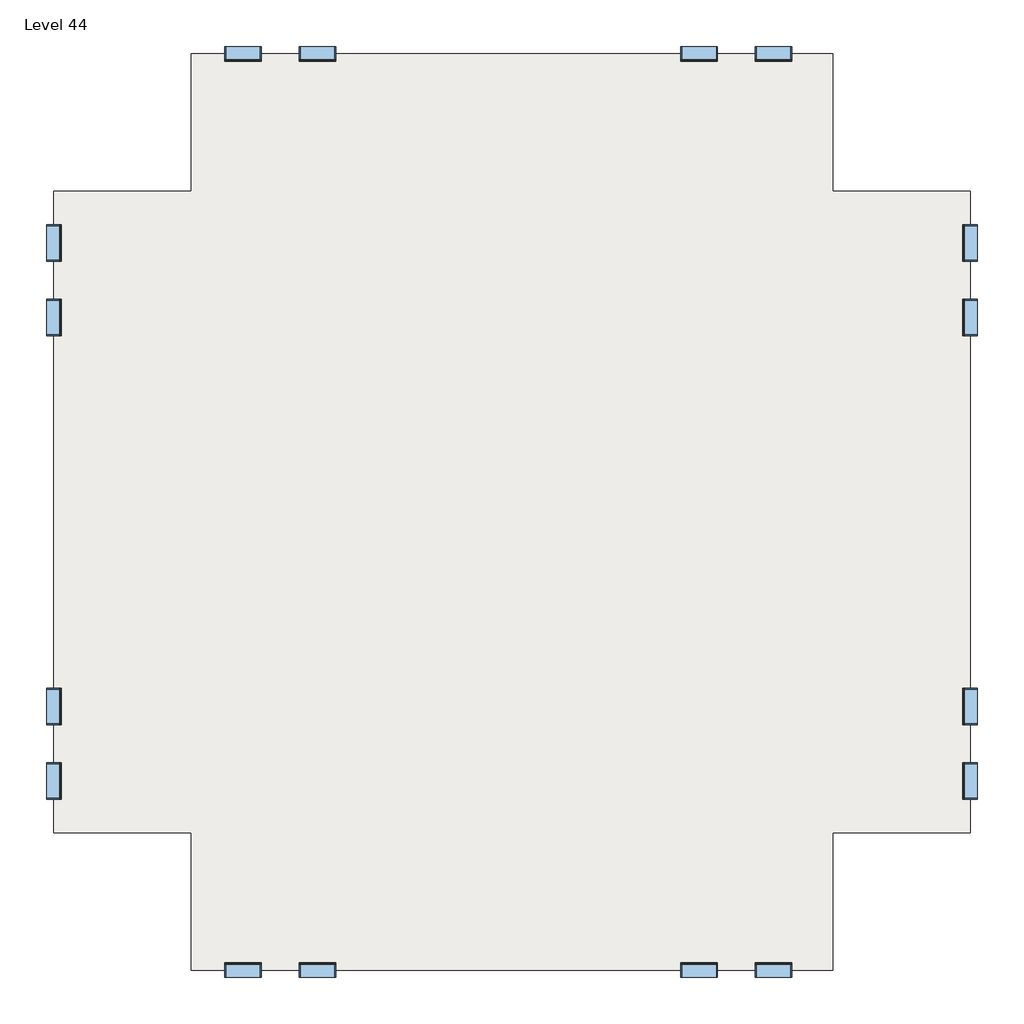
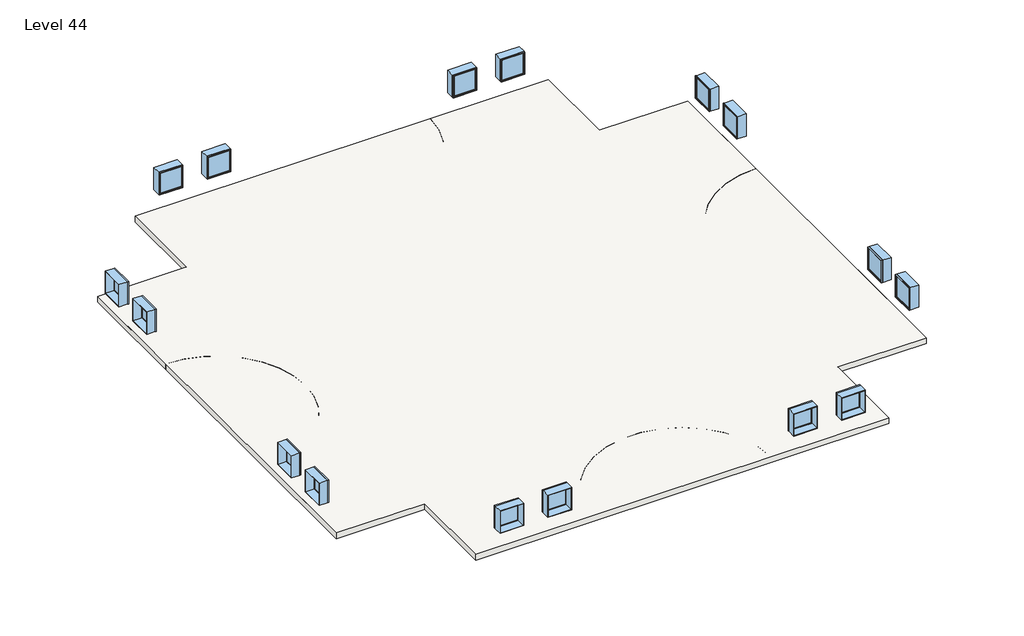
# One storey: 16 windows, 3 slabs.
"""IFC4 building model written with IfcOpenShell, lengths in millimetres."""

from ifc_helpers import new_model, si_unit, point, frame, frame_2d, origin, place, context, project, spatial, polyline, circle_curve, trimmed, segment, composite_curve, outline, extrude, transform, mapped, element, save
from components import window_d0035ecf, window_d434eb62

model = new_model("IFC4")

# Units and contexts
model_context = context("Model", 3, world=origin())
ifc_project = project(units=[si_unit("LENGTHUNIT", "METRE", prefix="MILLI")], contexts=[model_context])

# Site, building, storey
site = spatial("IfcSite", under=ifc_project)
building = spatial("IfcBuilding", under=site)
storey = spatial("IfcBuildingStorey", under=building, Name="Level 44", Elevation=131064.0)

# Slabs
placement = place(None, origin())
element("IfcSlab", 1, ObjectType="Generic - 12\"", at=placement, inside=storey, context=model_context, shape_type="SweptSolid", body=[
    extrude(outline(polyline([(-7150.3629456, 4479.6634547), (-7150.3629456, 9051.6634547), (14185.6370544, 9051.6634547), (14185.6370544, 4479.6634547), (18757.6370544, 4479.6634547), (18757.6370544, -16856.3365453), (14185.6370544, -16856.3365453), (14185.6370544, -21428.3365453), (-7150.3629456, -21428.3365453), (-7150.3629456, -16856.3365453), (-11722.3629456, -16856.3365453), (-11722.3629456, 4479.6634547), (-7150.3629456, 4479.6634547)])), frame((0.0, 0.0, 130759.2), z_axis=(0.0, 0.0, 1.0), x_axis=(1.0, 0.0, 0.0)), (0.0, 0.0, 1.0), 304.8),
])
element("IfcSlab", 2, ObjectType="Generic - 12\"", at=placement, inside=storey, context=model_context, shape_type="SweptSolid", body=[
    extrude(outline(polyline([(-7150.3629456, 4479.6634547), (-7150.3629456, 9051.6634547), (14185.6370544, 9051.6634547), (14185.6370544, 4479.6634547), (18757.6370544, 4479.6634547), (18757.6370544, -16856.3365453), (14185.6370544, -16856.3365453), (14185.6370544, -21428.3365453), (-7150.3629456, -21428.3365453), (-7150.3629456, -16856.3365453), (-11722.3629456, -16856.3365453), (-11722.3629456, 4479.6634547), (-7150.3629456, 4479.6634547)])), frame((0.0, 0.0, 130759.2), z_axis=(0.0, 0.0, 1.0), x_axis=(1.0, 0.0, 0.0)), (0.0, 0.0, 1.0), 304.8),
])
element("IfcSlab", 3, ObjectType="Generic - 12\"", at=placement, inside=storey, context=model_context, shape_type="SweptSolid", body=[
    extrude(outline(composite_curve([segment(polyline([(-7150.3629456, 4479.6634547), (-7150.3629456, 9051.6634547), (-1054.3629456, 9051.6634547)]), True, "CONTINUOUS"), segment(trimmed(circle_curve(frame_2d((3517.6370544, 9051.6634547)), 4572.0), [point((-1054.3629456, 9051.6634547))], [point((8089.6370544, 9051.6634547))], True, "CARTESIAN"), True, "CONTINUOUS"), segment(polyline([(8089.6370544, 9051.6634547), (14185.6370544, 9051.6634547), (14185.6370544, 4479.6634547), (18757.6370544, 4479.6634547), (18757.6370544, -1616.3365453)]), True, "CONTINUOUS"), segment(trimmed(circle_curve(frame_2d((18757.6370544, -6188.3365453)), 4572.0), [point((18757.6370544, -1616.3365453))], [point((18757.6370544, -10760.3365453))], True, "CARTESIAN"), True, "CONTINUOUS"), segment(polyline([(18757.6370544, -10760.3365453), (18757.6370544, -16856.3365453), (14185.6370544, -16856.3365453), (14185.6370544, -21428.3365453), (8089.6370544, -21428.3365453)]), True, "CONTINUOUS"), segment(trimmed(circle_curve(frame_2d((3517.6370544, -21428.3365453)), 4572.0), [point((8089.6370544, -21428.3365453))], [point((-1054.3629456, -21428.3365453))], True, "CARTESIAN"), True, "CONTINUOUS"), segment(polyline([(-1054.3629456, -21428.3365453), (-7150.3629456, -21428.3365453), (-7150.3629456, -16856.3365453), (-11722.3629456, -16856.3365453), (-11722.3629456, -10760.3365453)]), True, "CONTINUOUS"), segment(trimmed(circle_curve(frame_2d((-11722.3629456, -6188.3365453)), 4572.0), [point((-11722.3629456, -10760.3365453))], [point((-11722.3629456, -1616.3365453))], True, "CARTESIAN"), True, "CONTINUOUS"), segment(polyline([(-11722.3629456, -1616.3365453), (-11722.3629456, 4479.6634547), (-7150.3629456, 4479.6634547)]), True, "CONTINUOUS")], self_intersect=False)), frame((0.0, 0.0, 130759.2), z_axis=(0.0, 0.0, 1.0), x_axis=(1.0, 0.0, 0.0)), (0.0, 0.0, 1.0), 304.8),
])

# Windows
window_shape = window_d0035ecf(model_context)
element("IfcWindow", 4, ObjectType="Fixed : 48\" x 48\"", at=placement, inside=storey, context=model_context, shape_type="MappedRepresentation", body=[
    mapped(window_shape, transform((-11719.1879456, 247.3884547, 131064.0), x_axis=(0.0, -1.0, 0.0), y_axis=(1.0, 0.0, 0.0), z_axis=(0.0, 0.0, 1.0))),
])
element("IfcWindow", 5, ObjectType="Fixed : 48\" x 48\"", at=placement, inside=storey, context=model_context, shape_type="MappedRepresentation", body=[
    mapped(window_shape, transform((-5469.1993281, 9048.4884547, 131064.0), x_axis=(-1.0, 0.0, 0.0), y_axis=(0.0, -1.0, 0.0), z_axis=(0.0, 0.0, 1.0))),
])
element("IfcWindow", 6, ObjectType="Fixed : 48\" x 48\"", at=placement, inside=storey, context=model_context, shape_type="MappedRepresentation", body=[
    mapped(window_shape, transform((-11719.1879456, -15175.1729277, 131064.0), x_axis=(0.0, -1.0, 0.0), y_axis=(1.0, 0.0, 0.0), z_axis=(0.0, 0.0, 1.0))),
])
element("IfcWindow", 7, ObjectType="Fixed : 48\" x 48\"", at=placement, inside=storey, context=model_context, shape_type="MappedRepresentation", body=[
    mapped(window_shape, transform((-2918.0879456, -21425.1615453, 131064.0), x_axis=(1.0, 0.0, 0.0), y_axis=(0.0, 1.0, 0.0), z_axis=(0.0, 0.0, 1.0))),
])
element("IfcWindow", 8, ObjectType="Fixed : 48\" x 48\"", at=placement, inside=storey, context=model_context, shape_type="MappedRepresentation", body=[
    mapped(window_shape, transform((18754.4620544, 2798.4998372, 131064.0), x_axis=(0.0, 1.0, 0.0), y_axis=(-1.0, 0.0, 0.0), z_axis=(0.0, 0.0, 1.0))),
])
element("IfcWindow", 9, ObjectType="Fixed : 48\" x 48\"", at=placement, inside=storey, context=model_context, shape_type="MappedRepresentation", body=[
    mapped(window_shape, transform((9705.7120544, 9048.4884547, 131064.0), x_axis=(-1.0, 0.0, 0.0), y_axis=(0.0, -1.0, 0.0), z_axis=(0.0, 0.0, 1.0))),
])
element("IfcWindow", 10, ObjectType="Fixed : 48\" x 48\"", at=placement, inside=storey, context=model_context, shape_type="MappedRepresentation", body=[
    mapped(window_shape, transform((18754.4620544, -12624.0615453, 131064.0), x_axis=(0.0, 1.0, 0.0), y_axis=(-1.0, 0.0, 0.0), z_axis=(0.0, 0.0, 1.0))),
])
element("IfcWindow", 11, ObjectType="Fixed : 48\" x 48\"", at=placement, inside=storey, context=model_context, shape_type="MappedRepresentation", body=[
    mapped(window_shape, transform((12256.8234368, -21425.1615453, 131064.0), x_axis=(1.0, 0.0, 0.0), y_axis=(0.0, 1.0, 0.0), z_axis=(0.0, 0.0, 1.0))),
])
window_2_shape = window_d434eb62(model_context)
element("IfcWindow", 12, ObjectType="Fixed : 48\" x 48\"", at=placement, inside=storey, context=model_context, shape_type="MappedRepresentation", body=[
    mapped(window_2_shape, transform((-11719.1879456, 2798.4998372, 131064.0), x_axis=(0.0, 1.0, 0.0), y_axis=(-1.0, 0.0, 0.0), z_axis=(0.0, 0.0, 1.0))),
])
element("IfcWindow", 13, ObjectType="Fixed : 48\" x 48\"", at=placement, inside=storey, context=model_context, shape_type="MappedRepresentation", body=[
    mapped(window_2_shape, transform((-2918.0879456, 9048.4884547, 131064.0), x_axis=(1.0, 0.0, 0.0), y_axis=(0.0, 1.0, 0.0), z_axis=(0.0, 0.0, 1.0))),
])
element("IfcWindow", 14, ObjectType="Fixed : 48\" x 48\"", at=placement, inside=storey, context=model_context, shape_type="MappedRepresentation", body=[
    mapped(window_2_shape, transform((-11719.1879456, -12624.0615453, 131064.0), x_axis=(0.0, 1.0, 0.0), y_axis=(-1.0, 0.0, 0.0), z_axis=(0.0, 0.0, 1.0))),
])
element("IfcWindow", 15, ObjectType="Fixed : 48\" x 48\"", at=placement, inside=storey, context=model_context, shape_type="MappedRepresentation", body=[
    mapped(window_2_shape, transform((-5469.1993281, -21425.1615453, 131064.0), x_axis=(-1.0, 0.0, 0.0), y_axis=(0.0, -1.0, 0.0), z_axis=(0.0, 0.0, 1.0))),
])
element("IfcWindow", 16, ObjectType="Fixed : 48\" x 48\"", at=placement, inside=storey, context=model_context, shape_type="MappedRepresentation", body=[
    mapped(window_2_shape, transform((18754.4620544, 247.3884547, 131064.0), x_axis=(0.0, -1.0, 0.0), y_axis=(1.0, 0.0, 0.0), z_axis=(0.0, 0.0, 1.0))),
])
element("IfcWindow", 17, ObjectType="Fixed : 48\" x 48\"", at=placement, inside=storey, context=model_context, shape_type="MappedRepresentation", body=[
    mapped(window_2_shape, transform((12256.8234368, 9048.4884547, 131064.0), x_axis=(1.0, 0.0, 0.0), y_axis=(0.0, 1.0, 0.0), z_axis=(0.0, 0.0, 1.0))),
])
element("IfcWindow", 18, ObjectType="Fixed : 48\" x 48\"", at=placement, inside=storey, context=model_context, shape_type="MappedRepresentation", body=[
    mapped(window_2_shape, transform((18754.4620544, -15175.1729277, 131064.0), x_axis=(0.0, -1.0, 0.0), y_axis=(1.0, 0.0, 0.0), z_axis=(0.0, 0.0, 1.0))),
])
element("IfcWindow", 19, ObjectType="Fixed : 48\" x 48\"", at=placement, inside=storey, context=model_context, shape_type="MappedRepresentation", body=[
    mapped(window_2_shape, transform((9705.7120544, -21425.1615453, 131064.0), x_axis=(-1.0, 0.0, 0.0), y_axis=(0.0, -1.0, 0.0), z_axis=(0.0, 0.0, 1.0))),
])

save(model, "model.ifc")
